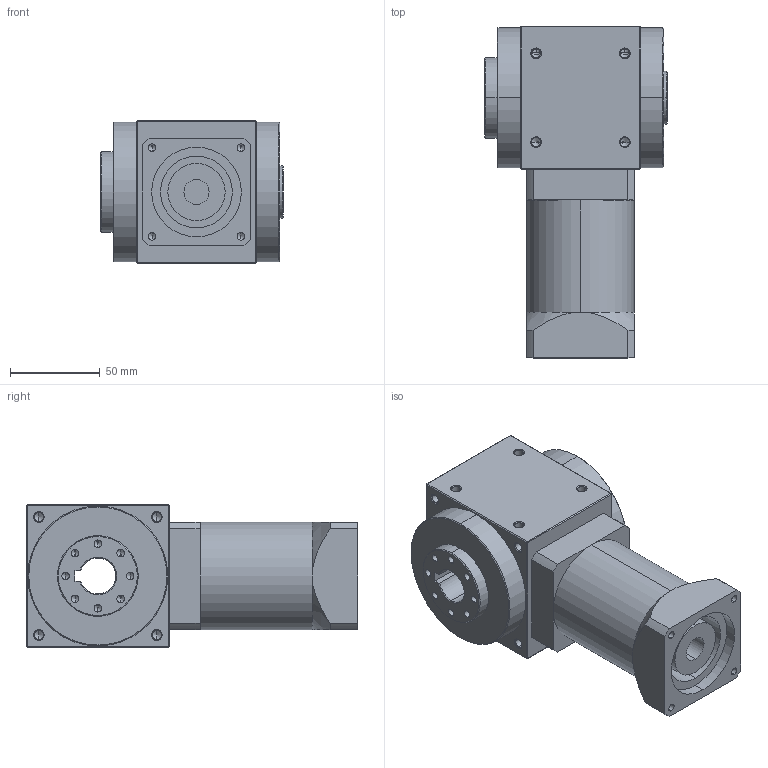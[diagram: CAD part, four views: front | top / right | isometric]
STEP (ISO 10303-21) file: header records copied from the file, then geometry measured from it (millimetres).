
FILE_DESCRIPTION (( 'STEP AP214' ), '1' );
FILE_NAME ('RXW080AS-L2-RFK-19-70-90-M6.STEP', '2020-11-24T03:18:24', ( '微软用户' ), ( '微软中国' ), 'SwSTEP 2.0', 'SolidWorks 2014', '' );
FILE_SCHEMA (( 'AUTOMOTIVE_DESIGN' ));
Length unit declared in the file: millimetre
Products named in the file (2): RXW080AS-L2-RFK-19-70-90-M6
Bounding box: 102 x 185 x 80 mm (x, y, z)
Volume: 825462.2 mm3; surface area: 89284.2 mm2
Topology: 2 solids, 2 shells, 279 faces, 638 edges, 348 vertices
Faces by surface type: cone 132, cylinder 95, plane 52
Entity records: 10030 total; most frequent: CARTESIAN_POINT 1429, DIRECTION 1380, ORIENTED_EDGE 1180, EDGE_CURVE 590, AXIS2_PLACEMENT_3D 543, VERTEX_POINT 348, EDGE_LOOP 322, LINE 294
